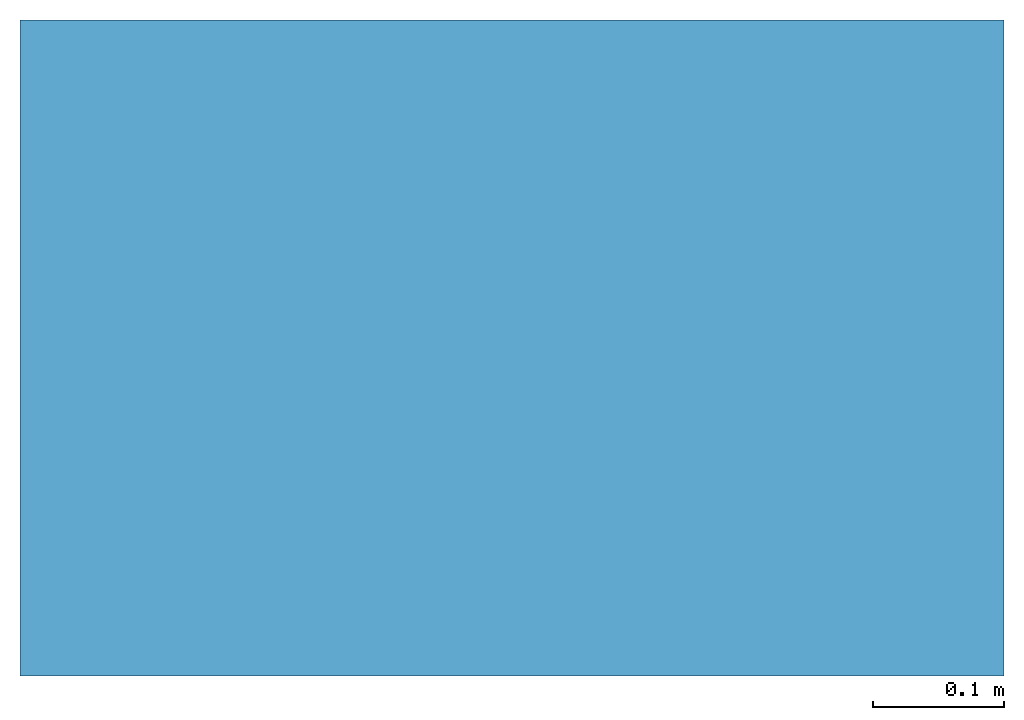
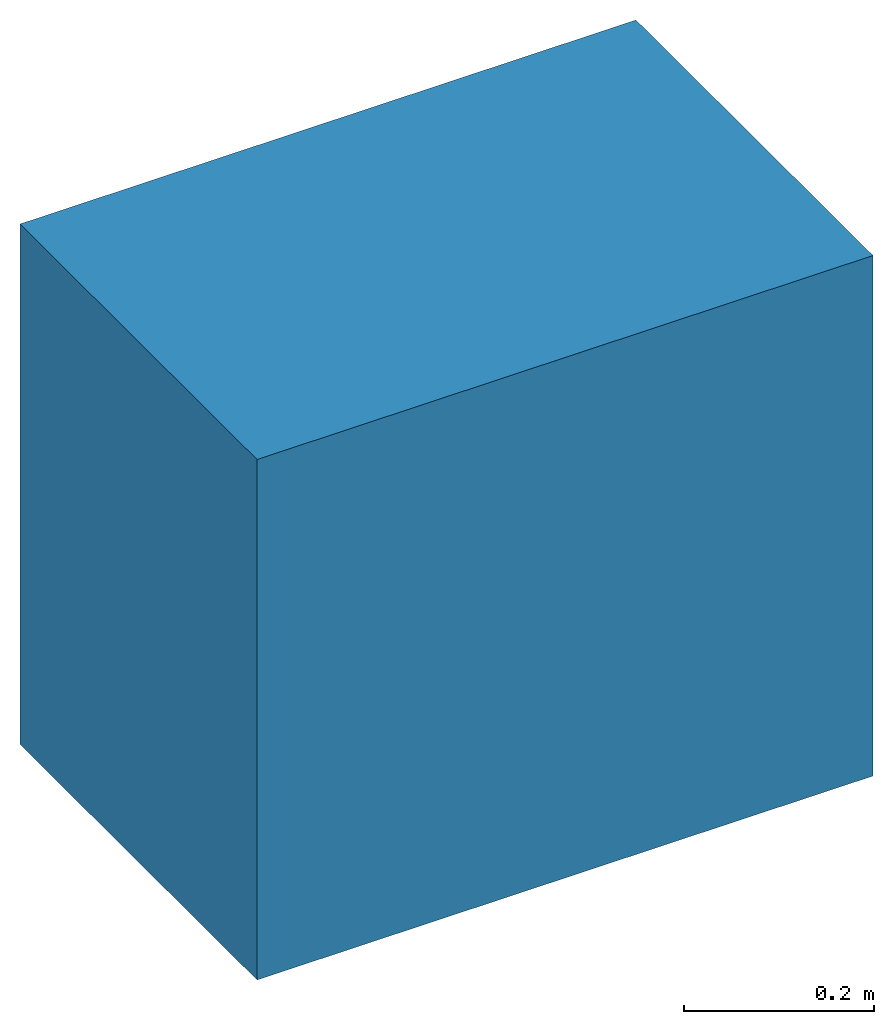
# One storey: 1 slab.
"""IFC4 building model written with IfcOpenShell, lengths in metres."""

from ifc_helpers import new_model, entity, si_unit, converted_unit, direction, frame, frame_2d, origin, place, context, subcontext, project, spatial, rectangle, extrude, material, type_object, element, save


model = new_model("IFC4")

# Units and contexts
model_context = context("Model", 3, precision=1e-05, world=origin(), true_north=direction((6.123031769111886e-17, 1.0)))
body_context = subcontext(model_context, "Body", "Model", "MODEL_VIEW")
ifc_project = project(units=[si_unit("LENGTHUNIT", "METRE"), converted_unit("PLANEANGLEUNIT", "DEGREE", entity("IfcPlaneAngleMeasure", 0.017453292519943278), si_unit("PLANEANGLEUNIT", "RADIAN"), dimensions=[0, 0, 0, 0, 0, 0, 0]), si_unit("AREAUNIT", "SQUARE_METRE")], contexts=[model_context])

# Site, building, storey
site_placement = place(None, origin())
site = spatial("IfcSite", under=ifc_project, at=site_placement, Name="Default", CompositionType="ELEMENT")
building_placement = place(site_placement, origin())
building = spatial("IfcBuilding", under=site, at=building_placement, CompositionType="ELEMENT")
storey_placement = place(building_placement, origin())
storey = spatial("IfcBuildingStorey", under=building, at=storey_placement, Name="Ebene 0", CompositionType="ELEMENT", Elevation=0.0)

# Slab
ifc_material = material(Name="DB_Magerbeton", Category="DB_Beton")
slab_type = type_object("IfcSlabType", Name="DB_BSK_55_Fundament_Pass_variabel:DB_BSK_55_Fundament_Pass_variabel", PredefinedType="BASESLAB", material=ifc_material)
slab_placement = place(storey_placement, origin())
element("IfcSlab", 1, at=slab_placement, inside=storey, type_object=slab_type, Name="DB_BSK_55_Fundament_Pass_variabel:DB_BSK_55_Fundament_Pass_variabel", ObjectType="DB_BSK_55_Fundament_Pass_variabel:DB_BSK_55_Fundament_Pass_variabel", PredefinedType="BASESLAB", context=body_context, shape_type="SweptSolid", body=[
    extrude(rectangle(XDim=0.7500000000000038, YDim=0.49999999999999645, at=frame_2d((4.718447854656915e-16, 0.0), x_axis=(1.0, 0.0))), frame((0.21500000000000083, 0.24999999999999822, -1.4701645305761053), z_axis=(0.0, 0.0, 1.0), x_axis=(-1.0, 0.0, 0.0)), (0.0, 0.0, 1.0), 0.12000000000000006),
    extrude(rectangle(XDim=0.7500000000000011, YDim=0.5000000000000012, at=frame_2d((4.996003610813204e-16, 0.0), x_axis=(1.0, 0.0))), frame((0.2150000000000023, 0.2500000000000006, -1.3501645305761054), z_axis=(0.0, 0.0, 1.0), x_axis=(-1.0, 0.0, 0.0)), (0.0, 0.0, 1.0), 0.5500000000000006),
])

save(model, "model.ifc")
